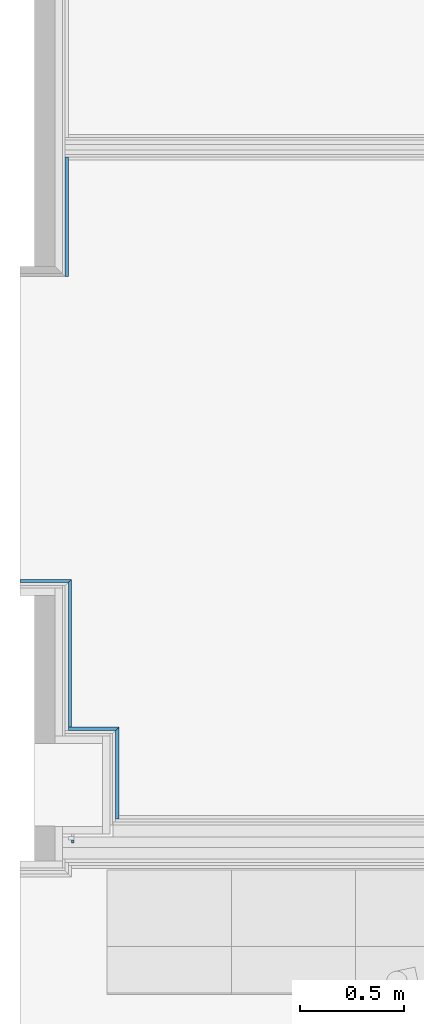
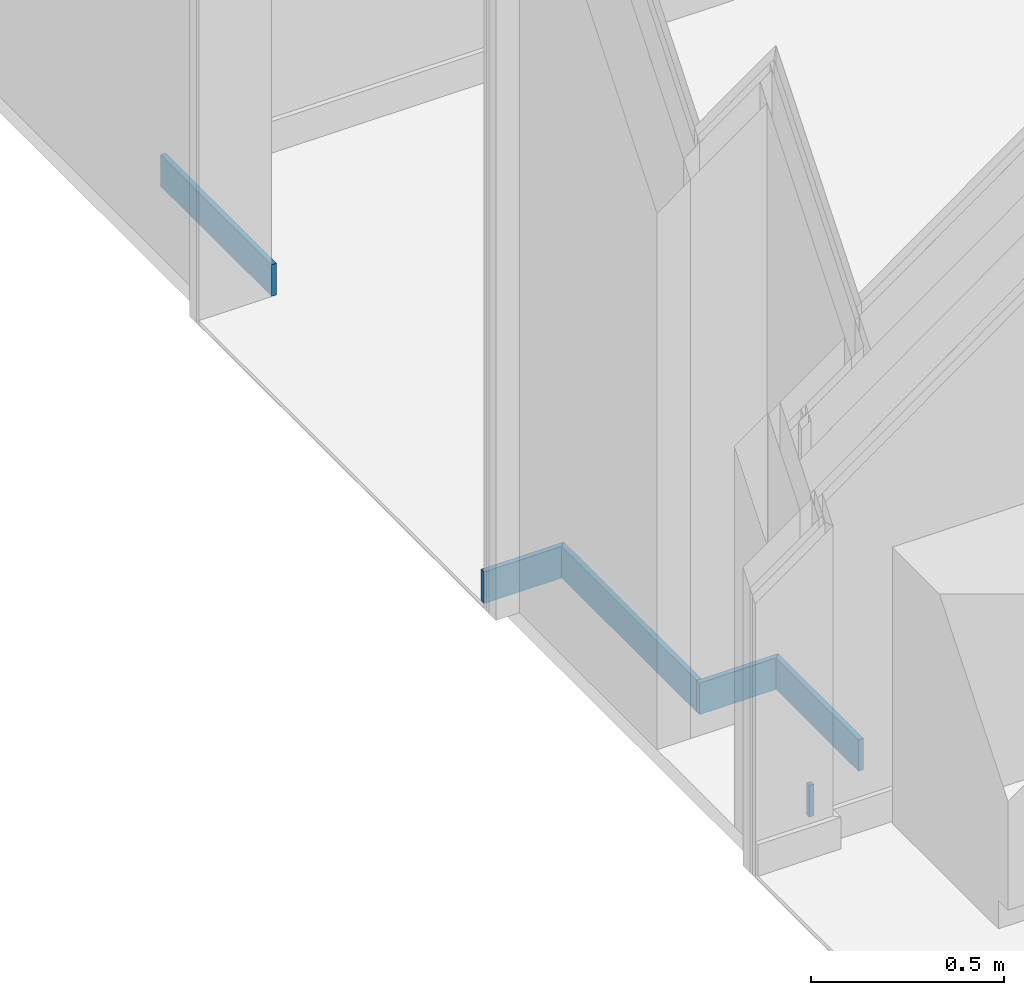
# One storey, part 32 of 85: 6 building element parts, 6 elements without a shape of their own.
"""IFC2X3 building model written with IfcOpenShell, lengths in metres."""

from ifc_helpers import new_model, entity, si_unit, converted_unit, derived_unit, money_unit, direction, frame, frame_2d, origin_with_axes, place, context, subcontext, project, spatial, polyline, rectangle, outline, extrude, material, type_object, element, aggregate, save


model = new_model("IFC2X3")

# Units and contexts
model_context = context("Model", 3, precision=1e-05, world=origin_with_axes(), true_north=direction((0.0, 1.0)))
body_context = subcontext(model_context, "Body", "Model", "MODEL_VIEW", scale=1.0)
ifc_project = project(units=[si_unit("LENGTHUNIT", "METRE"), si_unit("AREAUNIT", "SQUARE_METRE"), si_unit("VOLUMEUNIT", "CUBIC_METRE"), si_unit("ABSORBEDDOSEUNIT", "GRAY"), si_unit("AMOUNTOFSUBSTANCEUNIT", "MOLE"), si_unit("DOSEEQUIVALENTUNIT", "SIEVERT"), si_unit("ELECTRICCAPACITANCEUNIT", "FARAD"), si_unit("ELECTRICCHARGEUNIT", "COULOMB"), si_unit("ELECTRICCONDUCTANCEUNIT", "SIEMENS"), si_unit("ELECTRICCURRENTUNIT", "AMPERE"), si_unit("ELECTRICRESISTANCEUNIT", "OHM"), si_unit("ELECTRICVOLTAGEUNIT", "VOLT"), si_unit("ENERGYUNIT", "JOULE"), si_unit("FORCEUNIT", "NEWTON"), si_unit("FREQUENCYUNIT", "HERTZ"), si_unit("ILLUMINANCEUNIT", "LUX"), si_unit("INDUCTANCEUNIT", "HENRY"), si_unit("LUMINOUSFLUXUNIT", "LUMEN"), si_unit("LUMINOUSINTENSITYUNIT", "CANDELA"), si_unit("MAGNETICFLUXDENSITYUNIT", "TESLA"), si_unit("MAGNETICFLUXUNIT", "WEBER"), si_unit("MASSUNIT", "GRAM"), converted_unit("PLANEANGLEUNIT", "degree", entity("IfcReal", 0.0174532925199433), si_unit("PLANEANGLEUNIT", "RADIAN"), dimensions=[0, 0, 0, 0, 0, 0, 0]), si_unit("POWERUNIT", "WATT"), si_unit("PRESSUREUNIT", "PASCAL"), si_unit("RADIOACTIVITYUNIT", "BECQUEREL"), si_unit("SOLIDANGLEUNIT", "STERADIAN"), si_unit("THERMODYNAMICTEMPERATUREUNIT", "KELVIN"), si_unit("TIMEUNIT", "SECOND"), derived_unit("ACCELERATIONUNIT", [(si_unit("LENGTHUNIT", "METRE"), 1), (si_unit("TIMEUNIT", "SECOND"), -2)]), derived_unit("ANGULARVELOCITYUNIT", [(converted_unit("PLANEANGLEUNIT", "degree", entity("IfcReal", 0.0174532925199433), si_unit("PLANEANGLEUNIT", "RADIAN"), dimensions=[0, 0, 0, 0, 0, 0, 0]), 1), (si_unit("TIMEUNIT", "SECOND"), -1)]), derived_unit("CURVATUREUNIT", [(converted_unit("PLANEANGLEUNIT", "degree", entity("IfcReal", 0.0174532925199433), si_unit("PLANEANGLEUNIT", "RADIAN"), dimensions=[0, 0, 0, 0, 0, 0, 0]), 1), (si_unit("LENGTHUNIT", "METRE"), -1)]), derived_unit("DYNAMICVISCOSITYUNIT", [(si_unit("PRESSUREUNIT", "PASCAL"), 1), (si_unit("TIMEUNIT", "SECOND"), 1)]), derived_unit("HEATFLUXDENSITYUNIT", [(si_unit("POWERUNIT", "WATT"), 1), (si_unit("LENGTHUNIT", "METRE"), -2)]), derived_unit("HEATINGVALUEUNIT", [(si_unit("ENERGYUNIT", "JOULE"), 1), (si_unit("MASSUNIT", "GRAM"), -1)]), derived_unit("INTEGERCOUNTRATEUNIT", [(si_unit("TIMEUNIT", "SECOND"), -1)]), derived_unit("IONCONCENTRATIONUNIT", [(si_unit("MASSUNIT", "GRAM"), 1), (si_unit("VOLUMEUNIT", "CUBIC_METRE"), -1)]), derived_unit("ISOTHERMALMOISTURECAPACITYUNIT", [(si_unit("VOLUMEUNIT", "CUBIC_METRE"), 1), (si_unit("MASSUNIT", "GRAM"), -1)]), derived_unit("KINEMATICVISCOSITYUNIT", [(si_unit("AREAUNIT", "SQUARE_METRE"), 1), (si_unit("TIMEUNIT", "SECOND"), -1)]), derived_unit("LINEARFORCEUNIT", [(si_unit("FORCEUNIT", "NEWTON"), 1), (si_unit("LENGTHUNIT", "METRE"), -1)]), derived_unit("LINEARMOMENTUNIT", [(si_unit("FORCEUNIT", "NEWTON"), 1), (si_unit("LENGTHUNIT", "METRE"), -1)]), derived_unit("LINEARSTIFFNESSUNIT", [(si_unit("FORCEUNIT", "NEWTON"), 1), (si_unit("LENGTHUNIT", "METRE"), -1)]), derived_unit("LINEARVELOCITYUNIT", [(si_unit("LENGTHUNIT", "METRE"), 1), (si_unit("TIMEUNIT", "SECOND"), -1)]), derived_unit("LUMINOUSINTENSITYDISTRIBUTIONUNIT", [(si_unit("LUMINOUSINTENSITYUNIT", "CANDELA"), 1), (si_unit("LUMINOUSFLUXUNIT", "LUMEN"), -1)]), derived_unit("MASSDENSITYUNIT", [(si_unit("MASSUNIT", "GRAM"), 1), (si_unit("VOLUMEUNIT", "CUBIC_METRE"), -1)]), derived_unit("MASSFLOWRATEUNIT", [(si_unit("MASSUNIT", "GRAM"), 1), (si_unit("TIMEUNIT", "SECOND"), -1)]), derived_unit("MASSPERLENGTHUNIT", [(si_unit("MASSUNIT", "GRAM"), 1), (si_unit("LENGTHUNIT", "METRE"), -1)]), derived_unit("MODULUSOFELASTICITYUNIT", [(si_unit("FORCEUNIT", "NEWTON"), 1), (si_unit("AREAUNIT", "SQUARE_METRE"), -1)]), derived_unit("MODULUSOFLINEARSUBGRADEREACTIONUNIT", [(si_unit("FORCEUNIT", "NEWTON"), 1), (si_unit("LENGTHUNIT", "METRE"), -2)]), derived_unit("MODULUSOFROTATIONALSUBGRADEREACTIONUNIT", [(si_unit("FORCEUNIT", "NEWTON"), 1), (si_unit("LENGTHUNIT", "METRE"), 1)]), derived_unit("MODULUSOFSUBGRADEREACTIONUNIT", [(si_unit("FORCEUNIT", "NEWTON"), 1), (si_unit("VOLUMEUNIT", "CUBIC_METRE"), -1)]), derived_unit("MOISTUREDIFFUSIVITYUNIT", [(si_unit("VOLUMEUNIT", "CUBIC_METRE"), 1), (si_unit("TIMEUNIT", "SECOND"), -1)]), derived_unit("MOLECULARWEIGHTUNIT", [(si_unit("MASSUNIT", "GRAM"), 1), (si_unit("AMOUNTOFSUBSTANCEUNIT", "MOLE"), -1)]), derived_unit("PLANARFORCEUNIT", [(si_unit("FORCEUNIT", "NEWTON"), 1), (si_unit("LENGTHUNIT", "METRE"), -2)]), derived_unit("ROTATIONALFREQUENCYUNIT", [(si_unit("TIMEUNIT", "SECOND"), -1)]), derived_unit("ROTATIONALMASSUNIT", [(si_unit("MASSUNIT", "GRAM"), 1), (si_unit("LENGTHUNIT", "METRE"), 2)]), derived_unit("ROTATIONALSTIFFNESSUNIT", [(si_unit("FORCEUNIT", "NEWTON"), 1), (si_unit("LENGTHUNIT", "METRE"), 1), (converted_unit("PLANEANGLEUNIT", "degree", entity("IfcReal", 0.0174532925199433), si_unit("PLANEANGLEUNIT", "RADIAN"), dimensions=[0, 0, 0, 0, 0, 0, 0]), -1)]), derived_unit("SECTIONAREAINTEGRALUNIT", [(si_unit("LENGTHUNIT", "METRE"), 5)]), derived_unit("SECTIONMODULUSUNIT", [(si_unit("LENGTHUNIT", "METRE"), 3)]), derived_unit("SHEARMODULUSUNIT", [(si_unit("FORCEUNIT", "NEWTON"), 1), (si_unit("AREAUNIT", "SQUARE_METRE"), -1)]), derived_unit("SOUNDPOWERUNIT", [(si_unit("ENERGYUNIT", "JOULE"), 1), (si_unit("TIMEUNIT", "SECOND"), -1)]), derived_unit("SPECIFICHEATCAPACITYUNIT", [(si_unit("FORCEUNIT", "NEWTON"), 1), (si_unit("MASSUNIT", "GRAM"), -1), (si_unit("THERMODYNAMICTEMPERATUREUNIT", "KELVIN"), -1)]), derived_unit("TEMPERATUREGRADIENTUNIT", [(si_unit("THERMODYNAMICTEMPERATUREUNIT", "KELVIN"), 1), (si_unit("LENGTHUNIT", "METRE"), -1)]), derived_unit("THERMALADMITTANCEUNIT", [(si_unit("POWERUNIT", "WATT"), 1), (si_unit("AREAUNIT", "SQUARE_METRE"), -1), (si_unit("THERMODYNAMICTEMPERATUREUNIT", "KELVIN"), -1)]), derived_unit("THERMALCONDUCTANCEUNIT", [(si_unit("POWERUNIT", "WATT"), 1), (si_unit("LENGTHUNIT", "METRE"), -1), (si_unit("THERMODYNAMICTEMPERATUREUNIT", "KELVIN"), -1)]), derived_unit("THERMALEXPANSIONCOEFFICIENTUNIT", [(si_unit("THERMODYNAMICTEMPERATUREUNIT", "KELVIN"), -1)]), derived_unit("THERMALRESISTANCEUNIT", [(si_unit("AREAUNIT", "SQUARE_METRE"), 1), (si_unit("POWERUNIT", "WATT"), -1)]), derived_unit("THERMALTRANSMITTANCEUNIT", [(si_unit("POWERUNIT", "WATT"), 1), (si_unit("AREAUNIT", "SQUARE_METRE"), -1), (si_unit("THERMODYNAMICTEMPERATUREUNIT", "KELVIN"), -1)]), derived_unit("TORQUEUNIT", [(si_unit("FORCEUNIT", "NEWTON"), 1), (si_unit("LENGTHUNIT", "METRE"), 1)]), derived_unit("VAPORPERMEABILITYUNIT", [(si_unit("MASSUNIT", "GRAM"), 1), (si_unit("TIMEUNIT", "SECOND"), -1)]), derived_unit("VOLUMETRICFLOWRATEUNIT", [(si_unit("VOLUMEUNIT", "CUBIC_METRE"), 1), (si_unit("TIMEUNIT", "SECOND"), -1)]), derived_unit("WARPINGCONSTANTUNIT", [(si_unit("LENGTHUNIT", "METRE"), 6)]), derived_unit("WARPINGMOMENTUNIT", [(si_unit("FORCEUNIT", "NEWTON"), 1), (si_unit("LENGTHUNIT", "METRE"), 2)]), money_unit("GBP")], contexts=[model_context])

# Site, building, storey
site_placement = place(None, origin_with_axes())
site = spatial("IfcSite", under=ifc_project, at=site_placement, Name="Site", CompositionType="ELEMENT")
building_placement = place(site_placement, origin_with_axes())
building = spatial("IfcBuilding", under=site, at=building_placement, Name="Building01", CompositionType="ELEMENT")
storey_placement = place(building_placement, frame((0.0, 0.0, 12.13), z_axis=(0.0, 0.0, 1.0), x_axis=(1.0, 0.0, 0.0)))
storey = spatial("IfcBuildingStorey", under=building, at=storey_placement, Name="3F", CompositionType="ELEMENT", Elevation=12.13)

# Wall, building element part
wall_type_1 = type_object("IfcWallType", Name="SHE_A-Walls_Type06d_ExternalWallInsulation_48mm", PredefinedType="NOTDEFINED")
wall_1_placement = place(storey_placement, frame((0.27, 14.45, 0.0), z_axis=(0.0, 0.0, 1.0), x_axis=(0.0, -1.0, 0.0)))
wall_1 = element("IfcWall", 1, at=wall_1_placement, inside=storey, type_object=wall_type_1, Name="6D", ObjectType="SHE_A-Walls_Type06d_ExternalWallInsulation_48mm")
ifc_material = material(Name="A_BSUK_Walls_Timber")
building_element_part_1_placement = place(wall_1_placement, origin_with_axes())
building_element_part_1 = element("IfcBuildingElementPart", 2, at=building_element_part_1_placement, material=ifc_material, Name="4", context=body_context, shape_type="SweptSolid", body=[
    extrude(rectangle(XDim=0.015, YDim=0.57567, at=frame_2d((3.107165, 0.0555), x_axis=(0.0, -1.0))), frame((0.0, 0.0, 0.015), z_axis=(0.0, 0.0, 1.0), x_axis=(1.0, 0.0, 0.0)), (0.0, 0.0, 1.0), 0.1),
])
aggregate(wall_1, [building_element_part_1])

wall_type_2 = type_object("IfcWallType", Name="SHE_A-Walls_Type06f_ExternalWallInsulation_48+15mm", PredefinedType="NOTDEFINED")
wall_2_placement = place(storey_placement, frame((0.499178, 8.361548, 0.0), z_axis=(0.0, 0.0, 1.0), x_axis=(0.0, 1.0, 0.0)))
wall_2 = element("IfcWall", 3, at=wall_2_placement, inside=storey, type_object=wall_type_2, Name="6F", ObjectType="SHE_A-Walls_Type06f_ExternalWallInsulation_48+15mm")
building_element_part_2_placement = place(wall_2_placement, origin_with_axes())
building_element_part_2 = element("IfcBuildingElementPart", 4, at=building_element_part_2_placement, material=ifc_material, Name="1", context=body_context, shape_type="SweptSolid", body=[
    extrude(outline(polyline([(0.501452, -0.063), (0.074121, -0.063), (0.074121, -0.078), (0.516452, -0.078), (0.501452, -0.063)])), frame((0.0, 0.0, 0.015), z_axis=(0.0, 0.0, 1.0), x_axis=(1.0, 0.0, 0.0)), (0.0, 0.0, 1.0), 0.1),
])
aggregate(wall_2, [building_element_part_2])

wall_3_placement = place(storey_placement, frame((0.27, 8.8, 0.0), z_axis=(0.0, 0.0, 1.0), x_axis=(1.0, 0.0, 0.0)))
wall_3 = element("IfcWall", 5, at=wall_3_placement, inside=storey, type_object=wall_type_2, Name="6F", ObjectType="SHE_A-Walls_Type06f_ExternalWallInsulation_48+15mm")
building_element_part_3_placement = place(wall_3_placement, origin_with_axes())
building_element_part_3 = element("IfcBuildingElementPart", 6, at=building_element_part_3_placement, material=ifc_material, Name="4", context=body_context, shape_type="SweptSolid", body=[
    extrude(outline(polyline([(0.307178, 0.078), (0.063, 0.078), (0.063, 0.063), (0.292178, 0.063), (0.307178, 0.078)])), frame((0.0, 0.0, 0.015), z_axis=(0.0, 0.0, 1.0), x_axis=(1.0, 0.0, 0.0)), (0.0, 0.0, 1.0), 0.1),
])
aggregate(wall_3, [building_element_part_3])

wall_4_placement = place(storey_placement, frame((0.306, 8.397548, 0.0), z_axis=(0.0, 0.0, 1.0), x_axis=(1.0, 0.0, 0.0)))
wall_4 = element("IfcWall", 7, at=wall_4_placement, inside=storey, type_object=wall_type_2, Name="6F", ObjectType="SHE_A-Walls_Type06f_ExternalWallInsulation_48+15mm")
building_element_part_4_placement = place(wall_4_placement, origin_with_axes())
building_element_part_4 = element("IfcBuildingElementPart", 8, at=building_element_part_4_placement, material=ifc_material, Name="1", context=body_context, shape_type="SweptSolid", body=[
    extrude(rectangle(XDim=0.015, YDim=0.013562, at=frame_2d((0.048781, -0.0705), x_axis=(0.0, -1.0))), frame((0.0, 0.0, 0.015), z_axis=(0.0, 0.0, 1.0), x_axis=(1.0, 0.0, 0.0)), (0.0, 0.0, 1.0), 0.1),
])
aggregate(wall_4, [building_element_part_4])

wall_5_placement = place(storey_placement, frame((0.1, 9.51418, 0.0), z_axis=(0.0, 0.0, 1.0), x_axis=(1.0, 0.0, 0.0)))
wall_5 = element("IfcWall", 9, at=wall_5_placement, inside=storey, type_object=wall_type_2, Name="6F", ObjectType="SHE_A-Walls_Type06f_ExternalWallInsulation_48+15mm")
building_element_part_5_placement = place(wall_5_placement, origin_with_axes())
building_element_part_5 = element("IfcBuildingElementPart", 10, at=building_element_part_5_placement, material=ifc_material, Name="4", context=body_context, shape_type="SweptSolid", body=[
    extrude(outline(polyline([(0.248, 0.078), (0.0, 0.078), (0.0, 0.063), (0.233, 0.063), (0.248, 0.078)])), frame((0.0, 0.0, 0.015), z_axis=(0.0, 0.0, 1.0), x_axis=(1.0, 0.0, 0.0)), (0.0, 0.0, 1.0), 0.1),
])
aggregate(wall_5, [building_element_part_5])

wall_6_placement = place(storey_placement, frame((0.27, 8.836, 0.0), z_axis=(0.0, 0.0, 1.0), x_axis=(0.0, 1.0, 0.0)))
wall_6 = element("IfcWall", 11, at=wall_6_placement, inside=storey, type_object=wall_type_2, Name="6F", ObjectType="SHE_A-Walls_Type06f_ExternalWallInsulation_48+15mm")
building_element_part_6_placement = place(wall_6_placement, origin_with_axes())
building_element_part_6 = element("IfcBuildingElementPart", 12, at=building_element_part_6_placement, material=ifc_material, Name="1", context=body_context, shape_type="SweptSolid", body=[
    extrude(outline(polyline([(0.74118, -0.063), (0.042, -0.063), (0.042, -0.078), (0.75618, -0.078), (0.74118, -0.063)])), frame((0.0, 0.0, 0.015), z_axis=(0.0, 0.0, 1.0), x_axis=(1.0, 0.0, 0.0)), (0.0, 0.0, 1.0), 0.1),
])
aggregate(wall_6, [building_element_part_6])

save(model, "model.ifc")
